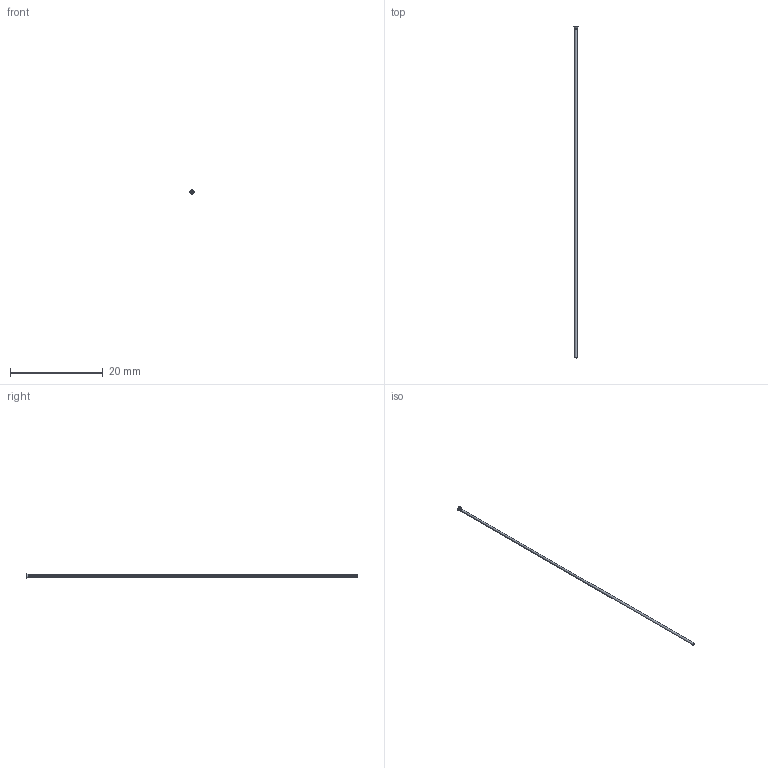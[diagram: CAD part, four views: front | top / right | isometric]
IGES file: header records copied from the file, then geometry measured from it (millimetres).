
Start section: SolidWorks IGES file using analytic representation for surfaces
Global section: file name: D:\Cleonir_arquivos\MT_15_07\Punções de Corte Tipo DA DIN 9861\PNDA00,5070H.igs; native system: SolidWorks 2013; preprocessor: SolidWorks 2013; author: Cleonir; date: 130731.204354; units: millimetre
Bounding box: 0.9 x 71.5 x 0.9 mm (x, y, z)
Surface area: 113.8 mm2 (no closed solid volume)
Topology: 0 solids, 0 shells, 312 faces, 1882 edges, 1882 vertices
Faces by surface type: bspline 298, revolution 14
